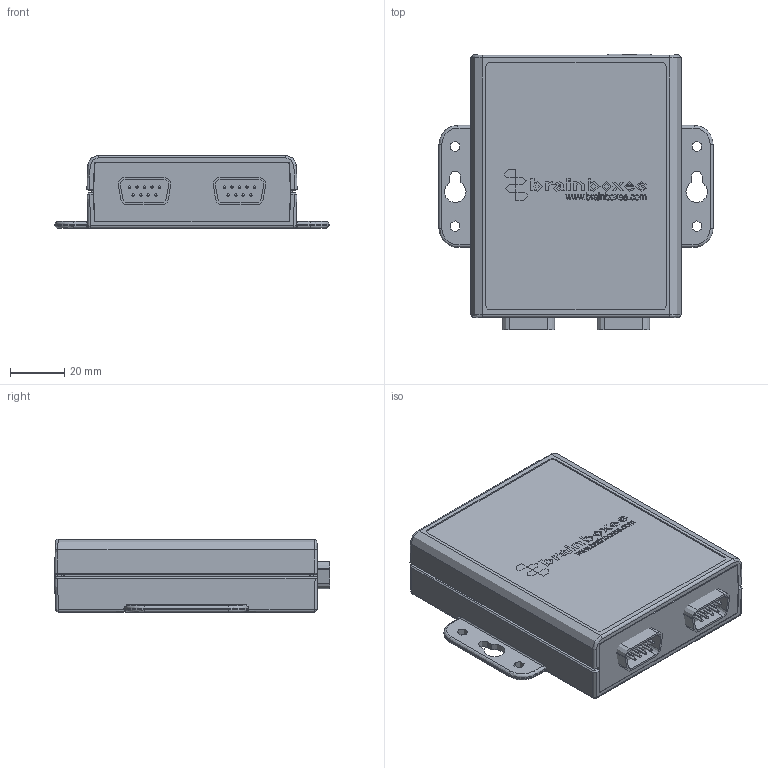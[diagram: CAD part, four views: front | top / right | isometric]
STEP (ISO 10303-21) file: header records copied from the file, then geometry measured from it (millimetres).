
FILE_DESCRIPTION(('STEP AP214'),'1');
FILE_NAME('ES-313 Cased 3D Step.step','2021-01-19T13:44:14',(' '),(' '),'Spatial InterOp 3D','XD3DPlugin XRACreate',' ');
FILE_SCHEMA(('automotive_design'));
Length unit declared in the file: millimetre
Products named in the file (44): Submodel-Input_S\00MAGJACKILED.xtd; 00MAGJACKILED; Submodel-00MAGJACKILED_part_simplified_MAGJACK_LEDS; DesignRootModel; Submodel-Input_S\50HEA5X2.xtd; 50HEA5X2; Submodel-50HEA5X2_part_simplified_H100MIL2X5; Submodel-Input_S\SMD_ELEC_D.xtd; SMD_ELEC_D; Submodel-7547UF50V_part_simplified_SMD_ELEC_D; Submodel-Input_S\6610UH5A5.xtd; 6610UH5A5; Submodel-6610UH5A5_part_simplified_SRR1260; Submodel-Input_S\SMC.xtd; SMC; Submodel-55TZ1K5SMC36V_part_simplified_SMC; Submodel-Input_S\00MRD09.xtd; 00MRD09; Submodel-00MRD09_part_simplified_DB9RA_slash_M; Submodel-Input_S\00HEC3650_0.xtd; 00HEC3650_0; Submodel-00HEC3650_part_simplified_HEC3650; Submodel-Input_S\40SMTBUTTON_0.xtd; 40SMTBUTTON_0; Submodel-40SMTBUTTON_part_simplified_SMTBUTTON; Submodel-Input_S\50HEA4X2.xtd; 50HEA4X2; Submodel-50HEA4X2_part_simplified_H100MIL2X4; uid__9223372036854779050; Submodel-AssyDefn_38; 00ESUSCASELIDNOHOLES.step; Submodel-AssyDefn_37; CamdenEndPanel.sat; Submodel-AssyDefn_36; BrainboxesLogo.sat; Submodel-AssyDefn_34; 00ESUSCASEBASE.sat; Submodel-noModelForPart_FIDUCIAL_3219705766; placementOutline; Submodel-FIDUCIAL_3219705766_part_FIDUCIAL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
Assembly tree (50 placements, depth 5):
  ES-313 Cased 3D Step
    DesignRootModel
      Submodel-00MAGJACKILED_part_simplified_MAGJACK_LEDS
        Submodel-Input_S\00MAGJACKILED.xtd
          00MAGJACKILED
      Submodel-50HEA5X2_part_simplified_H100MIL2X5  x2
        Submodel-Input_S\50HEA5X2.xtd
          50HEA5X2
      Submodel-7547UF50V_part_simplified_SMD_ELEC_D
        Submodel-Input_S\SMD_ELEC_D.xtd
          SMD_ELEC_D
      Submodel-6610UH5A5_part_simplified_SRR1260
        Submodel-Input_S\6610UH5A5.xtd
          6610UH5A5
      Submodel-55TZ1K5SMC36V_part_simplified_SMC  x3
        Submodel-Input_S\SMC.xtd
          SMC
      Submodel-00MRD09_part_simplified_DB9RA_slash_M  x2
        Submodel-Input_S\00MRD09.xtd
          00MRD09
      Submodel-00HEC3650_part_simplified_HEC3650
        Submodel-Input_S\00HEC3650_0.xtd
          00HEC3650_0
      Submodel-40SMTBUTTON_part_simplified_SMTBUTTON
        Submodel-Input_S\40SMTBUTTON_0.xtd
          40SMTBUTTON_0
      Submodel-50HEA4X2_part_simplified_H100MIL2X4
        Submodel-Input_S\50HEA4X2.xtd
          50HEA4X2
      uid__9223372036854779050
      Submodel-AssyDefn_38
        00ESUSCASELIDNOHOLES.step
      Submodel-AssyDefn_37  x2
        CamdenEndPanel.sat
      Submodel-AssyDefn_36  x2
        BrainboxesLogo.sat
      Submodel-AssyDefn_34
        00ESUSCASEBASE.sat
      Submodel-FIDUCIAL_3219705766_part_FIDUCIAL
        Submodel-noModelForPart_FIDUCIAL_3219705766
          placementOutline
      Submodel-MOUNTINGHOLE_2132796670_part_MOUNTINGHOLE  x2
        Submodel-noModelForPart_MOUNTINGHOLE_2132796670
          placementOutline
Bounding box: 101 x 101.41 x 27.1 mm (x, y, z)
Volume: 69101.7 mm3; surface area: 84495 mm2
Topology: 132 solids, 854 shells, 6161 faces, 18024 edges, 12856 vertices
Faces by surface type: plane 4584, cylinder 823, bspline 638, sphere 53, torus 50, cone 13
Full cylindrical faces by diameter (mm): 0.6 x2
Entity records: 207707 total; most frequent: CARTESIAN_POINT 37251, ORIENTED_EDGE 25945, DIRECTION 24551, EDGE_CURVE 13857, LINE 11419, VECTOR 11419, VERTEX_POINT 9524, AXIS2_PLACEMENT_3D 6566
